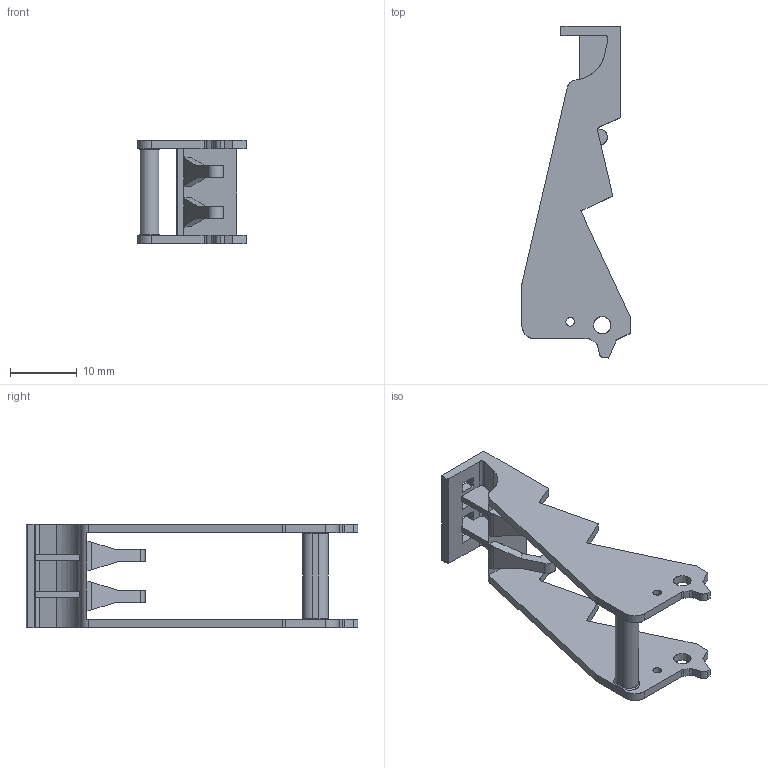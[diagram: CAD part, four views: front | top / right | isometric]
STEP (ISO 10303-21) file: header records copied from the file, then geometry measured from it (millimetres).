
FILE_DESCRIPTION(('STEP AP214'),'2;1');
FILE_NAME('095913_ponticello.stp','2010-10-19T08:20:05',(''),(''),'2007.1.106','THINKDESIGN','');
FILE_SCHEMA(('AUTOMOTIVE_DESIGN'));
Length unit declared in the file: millimetre
Products named in the file (1): None
Bounding box: 16.2 x 49.64 x 15.5 mm (x, y, z)
Surface area: 2952.6 mm2 (no closed solid volume)
Topology: 0 solids, 0 shells, 117 faces, 696 edges, 696 vertices
Faces by surface type: plane 76, cylinder 35, bspline 6
Full cylindrical faces by diameter (mm): 1.3 x2, 2.6 x2
Entity records: 7259 total; most frequent: CARTESIAN_POINT 2321, DIRECTION 896, COMPOSITE_CURVE_SEGMENT 696, TRIMMED_CURVE 590, VECTOR 506, LINE 506, AXIS2_PLACEMENT_3D 195, OUTER_BOUNDARY_CURVE 117
